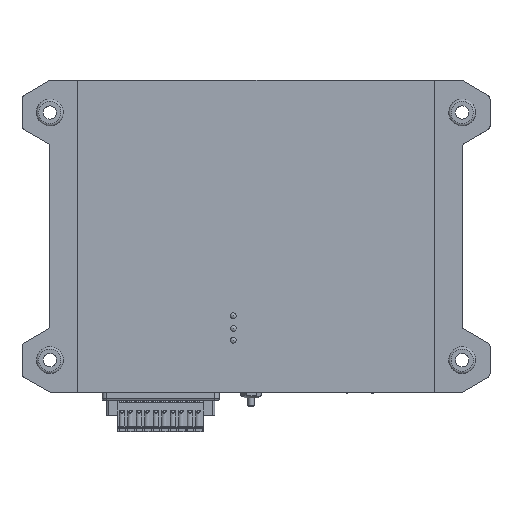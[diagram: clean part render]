
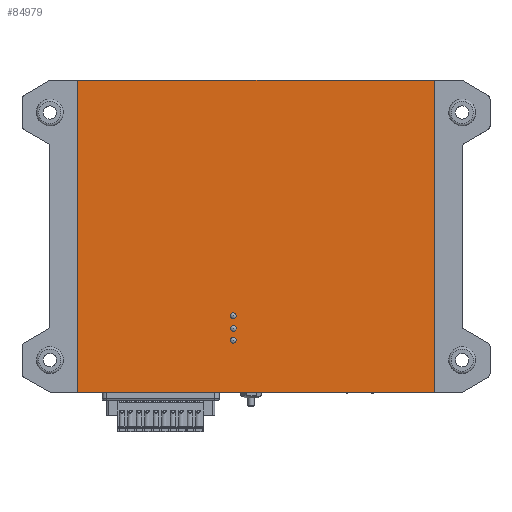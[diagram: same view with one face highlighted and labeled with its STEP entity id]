
A CAD part, top view. The second image highlights one B-rep face of the part: STEP entity #84979.
In plain terms, the highlighted planar face has unit normal (0, 0, 1).
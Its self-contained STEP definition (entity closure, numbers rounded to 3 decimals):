
#594=PLANE('',#88916);
#3546=LINE('',#114945,#11173);
#3550=LINE('',#114953,#11177);
#3551=LINE('',#114955,#11178);
#3552=LINE('',#114957,#11179);
#11173=VECTOR('',#95282,1000.);
#11177=VECTOR('',#95288,1000.);
#11178=VECTOR('',#95291,1000.);
#11179=VECTOR('',#95292,1000.);
#19164=ORIENTED_EDGE('',*,*,#39040,.F.);
#19165=ORIENTED_EDGE('',*,*,#39042,.F.);
#19166=ORIENTED_EDGE('',*,*,#39044,.F.);
#19167=ORIENTED_EDGE('',*,*,#39053,.F.);
#19168=ORIENTED_EDGE('',*,*,#39054,.T.);
#19169=ORIENTED_EDGE('',*,*,#39048,.T.);
#19170=ORIENTED_EDGE('',*,*,#39052,.F.);
#39040=EDGE_CURVE('',#49034,#49034,#55484,.T.);
#39042=EDGE_CURVE('',#49036,#49036,#55486,.T.);
#39044=EDGE_CURVE('',#49038,#49038,#55488,.T.);
#39048=EDGE_CURVE('',#49043,#49042,#3546,.T.);
#39052=EDGE_CURVE('',#49045,#49042,#3550,.T.);
#39053=EDGE_CURVE('',#49046,#49045,#3551,.T.);
#39054=EDGE_CURVE('',#49046,#49043,#3552,.T.);
#49034=VERTEX_POINT('',#114926);
#49036=VERTEX_POINT('',#114931);
#49038=VERTEX_POINT('',#114936);
#49042=VERTEX_POINT('',#114944);
#49043=VERTEX_POINT('',#114946);
#49045=VERTEX_POINT('',#114952);
#49046=VERTEX_POINT('',#114956);
#55484=CIRCLE('',#88906,1.15);
#55486=CIRCLE('',#88909,1.15);
#55488=CIRCLE('',#88912,1.15);
#57535=EDGE_LOOP('',(#19164));
#57536=EDGE_LOOP('',(#19165));
#57537=EDGE_LOOP('',(#19166));
#57538=EDGE_LOOP('',(#19167,#19168,#19169,#19170));
#61701=FACE_BOUND('',#57535,.T.);
#61702=FACE_BOUND('',#57536,.T.);
#61703=FACE_BOUND('',#57537,.T.);
#61704=FACE_BOUND('',#57538,.T.);
#84979=ADVANCED_FACE('',(#61701,#61702,#61703,#61704),#594,.T.);
#88906=AXIS2_PLACEMENT_3D('',#114925,#95262,#95263);
#88909=AXIS2_PLACEMENT_3D('',#114930,#95268,#95269);
#88912=AXIS2_PLACEMENT_3D('',#114935,#95274,#95275);
#88916=AXIS2_PLACEMENT_3D('',#114954,#95289,#95290);
#95262=DIRECTION('',(0.,0.,1.));
#95263=DIRECTION('',(1.,0.,0.));
#95268=DIRECTION('',(0.,0.,1.));
#95269=DIRECTION('',(1.,0.,0.));
#95274=DIRECTION('',(0.,0.,1.));
#95275=DIRECTION('',(1.,0.,0.));
#95282=DIRECTION('',(0.,1.,0.));
#95288=DIRECTION('',(1.,0.,0.));
#95289=DIRECTION('',(0.,0.,1.));
#95290=DIRECTION('',(1.,0.,0.));
#95291=DIRECTION('',(0.,1.,0.));
#95292=DIRECTION('',(1.,0.,0.));
#114925=CARTESIAN_POINT('',(-10.288,-35.666,29.));
#114926=CARTESIAN_POINT('',(-9.138,-35.666,29.));
#114930=CARTESIAN_POINT('',(-10.288,-41.38,29.));
#114931=CARTESIAN_POINT('',(-9.138,-41.38,29.));
#114935=CARTESIAN_POINT('',(-10.288,-46.715,29.));
#114936=CARTESIAN_POINT('',(-9.138,-46.715,29.));
#114944=CARTESIAN_POINT('',(79.895,70.,29.));
#114945=CARTESIAN_POINT('',(79.895,-70.,29.));
#114946=CARTESIAN_POINT('',(79.895,-70.,29.));
#114952=CARTESIAN_POINT('',(-80.105,70.,29.));
#114953=CARTESIAN_POINT('',(-80.105,70.,29.));
#114954=CARTESIAN_POINT('',(-80.105,-70.,29.));
#114955=CARTESIAN_POINT('',(-80.105,-70.,29.));
#114956=CARTESIAN_POINT('',(-80.105,-70.,29.));
#114957=CARTESIAN_POINT('',(-80.105,-70.,29.));
